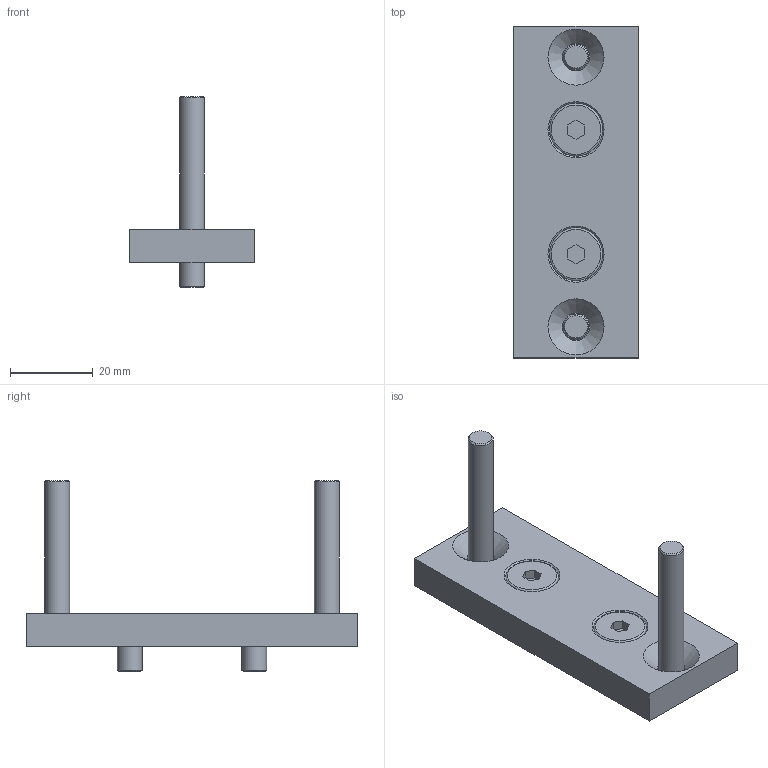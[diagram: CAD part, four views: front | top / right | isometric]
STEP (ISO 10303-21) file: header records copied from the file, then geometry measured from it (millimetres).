
FILE_DESCRIPTION(/* description */ ('Unknown'),/* implementation_level */ '2;1');
FILE_NAME(/* name */ '113.00125_00',/* time_stamp */ '2022-02-14T14:29:35+01:00',/* author */ ('Unknown'),/* organization */ ('Unknown'),/* preprocessor_version */ 'ST-DEVELOPER v18.1',/* originating_system */ 'Solid Edge',/* authorisation */ 'Unknown');
FILE_SCHEMA (('AUTOMOTIVE_DESIGN {1 0 10303 214 3 1 1}'));
Length unit declared in the file: millimetre
Products named in the file (4): 113.00125; 126.00096; 142.00063; 142.00260
Assembly tree (5 placements, depth 2):
  113.00125
    126.00096
    142.00063  x2
    142.00260  x2
Bounding box: 30 x 80 x 46 mm (x, y, z)
Volume: 20797.5 mm3; surface area: 9856.8 mm2
Topology: 5 solids, 5 shells, 68 faces, 148 edges, 94 vertices
Faces by surface type: plane 42, cone 14, cylinder 10, torus 2
Full cylindrical faces by diameter (mm): 6 x4, 6.6 x4, 12.1 x2
Entity records: 1335 total; most frequent: DIRECTION 192, CARTESIAN_POINT 176, ORIENTED_EDGE 144, EDGE_CURVE 72, AXIS2_PLACEMENT_3D 72, EDGE_LOOP 70, FACE_BOUND 70, VERTEX_POINT 56
